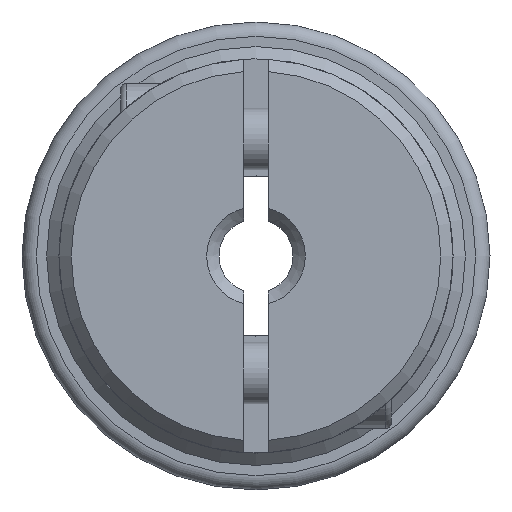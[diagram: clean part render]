
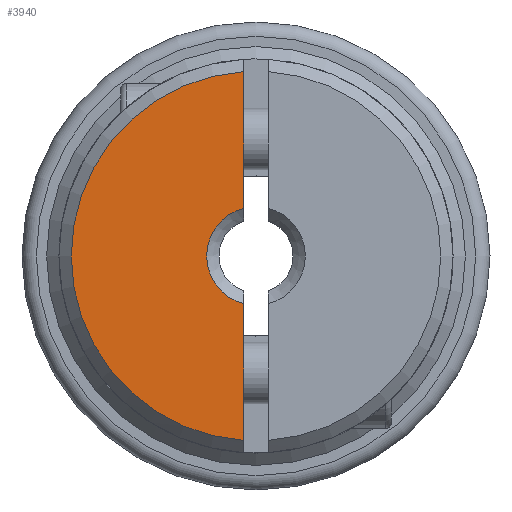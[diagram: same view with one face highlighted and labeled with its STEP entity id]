
A CAD part, left-side view. The second image highlights one B-rep face of the part: STEP entity #3940.
In plain terms, the highlighted planar face has unit normal (-1, 0, 0).
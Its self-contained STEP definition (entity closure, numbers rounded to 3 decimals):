
#94=LINE('',#5435,#238);
#108=LINE('',#5560,#252);
#238=VECTOR('',#4527,1000.);
#252=VECTOR('',#4615,1000.);
#495=ORIENTED_EDGE('',*,*,#1100,.F.);
#496=ORIENTED_EDGE('',*,*,#1139,.T.);
#497=ORIENTED_EDGE('',*,*,#1140,.F.);
#498=ORIENTED_EDGE('',*,*,#1141,.F.);
#1100=EDGE_CURVE('',#1432,#1433,#94,.T.);
#1139=EDGE_CURVE('',#1432,#1464,#1703,.T.);
#1140=EDGE_CURVE('',#1465,#1464,#108,.T.);
#1141=EDGE_CURVE('',#1433,#1465,#1704,.T.);
#1432=VERTEX_POINT('',#5434);
#1433=VERTEX_POINT('',#5436);
#1464=VERTEX_POINT('',#5557);
#1465=VERTEX_POINT('',#5561);
#1703=CIRCLE('',#4170,7.5);
#1704=CIRCLE('',#4172,2.);
#1881=EDGE_LOOP('',(#495,#496,#497,#498));
#2189=FACE_BOUND('',#1881,.T.);
#2472=PLANE('',#4171);
#3940=ADVANCED_FACE('',(#2189),#2472,.T.);
#4170=AXIS2_PLACEMENT_3D('',#5558,#4611,#4612);
#4171=AXIS2_PLACEMENT_3D('',#5559,#4613,#4614);
#4172=AXIS2_PLACEMENT_3D('',#5562,#4616,#4617);
#4527=DIRECTION('',(0.,0.,-1.));
#4611=DIRECTION('',(-1.,0.,0.));
#4612=DIRECTION('',(0.,0.,1.));
#4613=DIRECTION('',(-1.,0.,0.));
#4614=DIRECTION('',(0.,0.,1.));
#4615=DIRECTION('',(0.,0.,-1.));
#4616=DIRECTION('',(-1.,0.,0.));
#4617=DIRECTION('',(0.,0.,1.));
#5434=CARTESIAN_POINT('',(0.,0.5,7.483));
#5435=CARTESIAN_POINT('',(0.,0.5,-1.));
#5436=CARTESIAN_POINT('',(0.,0.5,1.936));
#5557=CARTESIAN_POINT('',(0.,0.5,-7.483));
#5558=CARTESIAN_POINT('',(0.,0.,0.));
#5559=CARTESIAN_POINT('',(0.,0.,2.));
#5560=CARTESIAN_POINT('',(0.,0.5,1.));
#5561=CARTESIAN_POINT('',(0.,0.5,-1.936));
#5562=CARTESIAN_POINT('',(0.,0.,0.));
